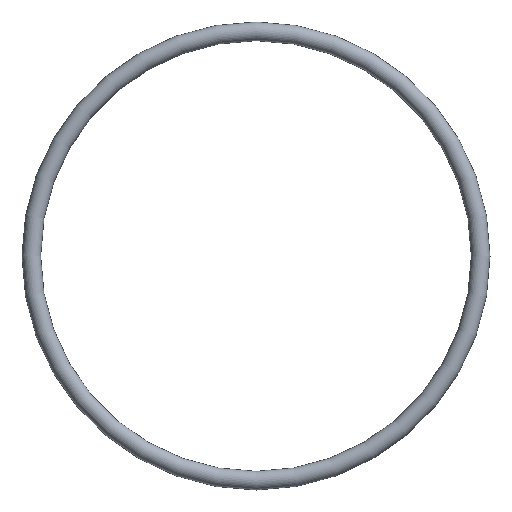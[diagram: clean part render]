
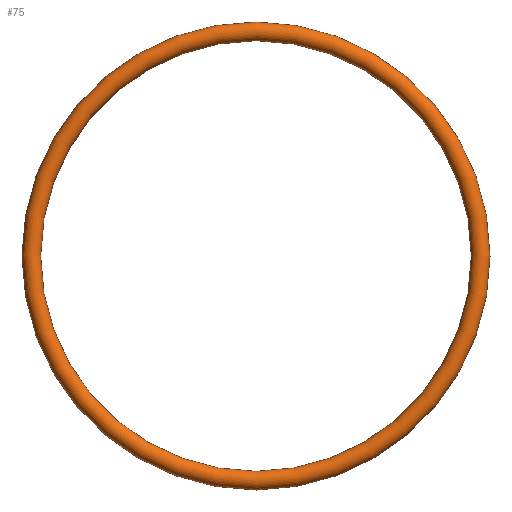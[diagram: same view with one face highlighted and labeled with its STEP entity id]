
A CAD part, front view. The second image highlights one B-rep face of the part: STEP entity #75.
In plain terms, the highlighted toroidal (fillet/blend) face has major radius 36 mm and minor radius 1.5 mm.
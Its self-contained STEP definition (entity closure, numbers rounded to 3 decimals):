
#75 = ADVANCED_FACE( '', ( #77 ), #78, .T. );
#77 = FACE_BOUND( '', #79, .T. );
#78 = TOROIDAL_SURFACE( '', #80, 36., 1.5 );
#79 = VERTEX_LOOP( '', #81 );
#80 = AXIS2_PLACEMENT_3D( '', #82, #83, #84 );
#81 = VERTEX_POINT( '', #85 );
#82 = CARTESIAN_POINT( '', ( 0., 0., 0. ) );
#83 = DIRECTION( '', ( 0., -1., 0. ) );
#84 = DIRECTION( '', ( 0., 0., -1. ) );
#85 = CARTESIAN_POINT( '', ( 0., 0., -37.5 ) );
